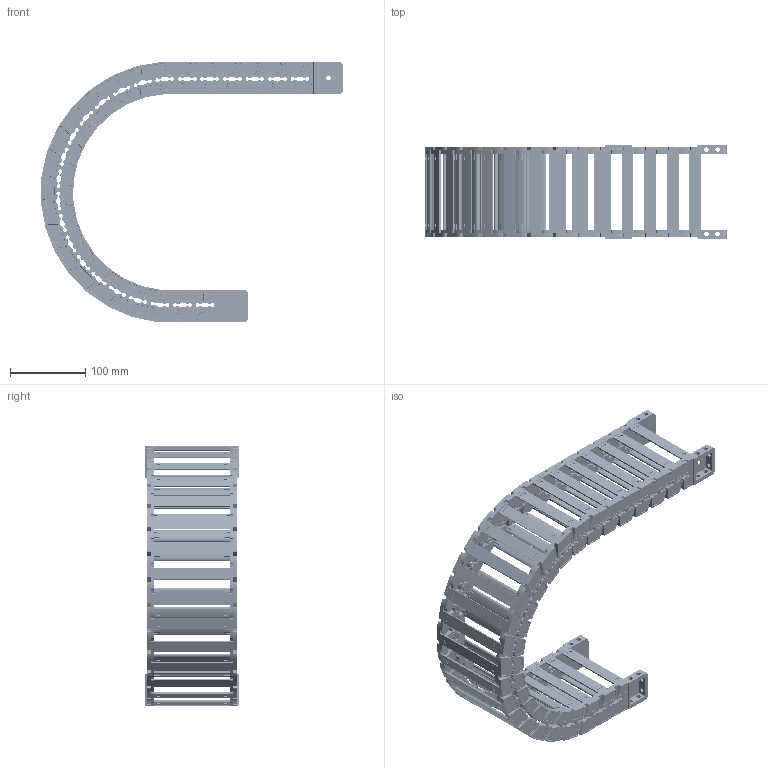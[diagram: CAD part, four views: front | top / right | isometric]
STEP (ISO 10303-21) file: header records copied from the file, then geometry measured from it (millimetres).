
FILE_DESCRIPTION((''),'2;1');
FILE_NAME('JY-35X100-R150_ASM','2026-05-07T15:27:04',('admin'),(''),'CREO PARAMETRIC BY PTC INC, 2021023','CREO PARAMETRIC BY PTC INC, 2021023','');
FILE_SCHEMA(('CONFIG_CONTROL_DESIGN'));
Length unit declared in the file: millimetre
Products named in the file (11): 35XL-L; YP; 35XL-R; ASM0001_ASM; 35-LTT-A-L; 35-LTT-A-R; 35XL-LTT-A_ASM; 35-LTT-B-L; 35-LTT-B-R; 35XL-LTT-B_ASM; JY-35X100-R150_ASM
Assembly tree (37 placements, depth 3):
  JY-35X100-R150_ASM
    ASM0001_ASM  x23
      35XL-L
      YP
      35XL-R
    35XL-LTT-A_ASM
      35-LTT-A-L
      YP  x2
      35-LTT-A-R
    35XL-LTT-B_ASM
      35-LTT-B-L
      YP  x2
      35-LTT-B-R
Bounding box: 402.36 x 124.5 x 347.06 mm (x, y, z)
Volume: 791718.1 mm3; surface area: 479739.8 mm2
Topology: 100 solids, 100 shells, 8160 faces, 24472 edges, 16520 vertices
Faces by surface type: plane 4618, cylinder 2678, cone 528, extrusion 192, bspline 144
Entity records: 27906 total; most frequent: CARTESIAN_POINT 6170, ORIENTED_EDGE 4640, DIRECTION 4369, EDGE_CURVE 2320, VERTEX_POINT 1568, AXIS2_PLACEMENT_3D 1476, VECTOR 1417, LINE 1401
